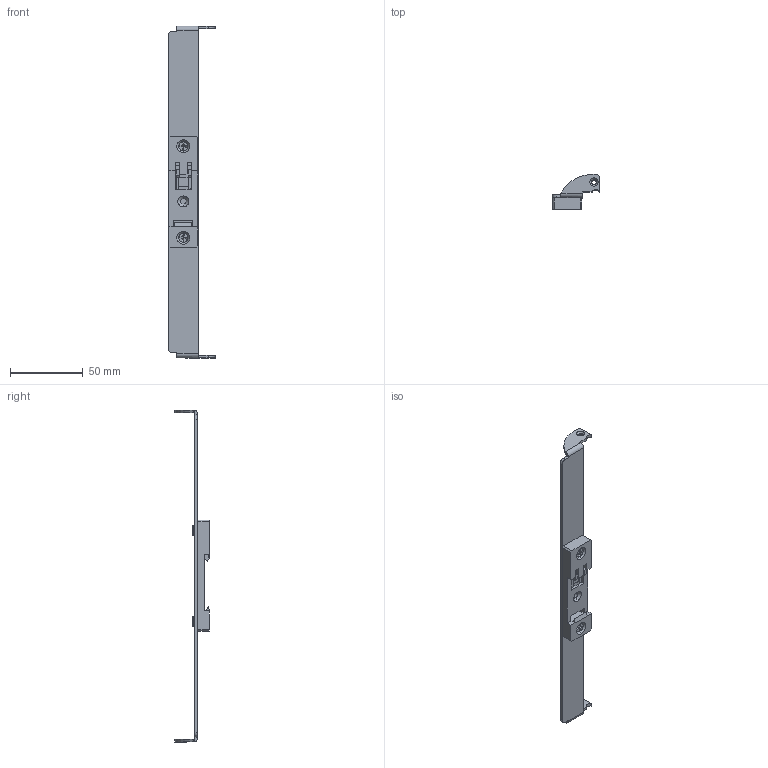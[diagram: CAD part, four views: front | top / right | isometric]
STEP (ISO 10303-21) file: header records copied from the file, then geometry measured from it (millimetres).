
FILE_DESCRIPTION (( 'STEP AP214' ), '1' );
FILE_NAME ('BRH220 assembly.STEP', '2024-02-07T16:08:20', ( '' ), ( '' ), 'SwSTEP 2.0', 'SolidWorks 2016', '' );
FILE_SCHEMA (( 'AUTOMOTIVE_DESIGN' ));
Length unit declared in the file: inch
Products named in the file (15): flat head screw_ai; Pusher; spring; flat head screw_ai_CR-FHMS 0.138-32x0.375x0.375-N; BRH220; 6-32 PEM Nut; Clamp mechanism; BRH220 assembly
Assembly tree (8 placements, depth 2):
  flat head screw_ai
  flat head screw_ai
  Pusher
  spring
  BRH220
Bounding box: 33 x 24 x 228.5 mm (x, y, z)
Volume: 18690 mm3; surface area: 18178.6 mm2
Topology: 8 solids, 8 shells, 259 faces, 658 edges, 418 vertices
Faces by surface type: plane 156, cylinder 75, cone 14, torus 8, bspline 6
Entity records: 7865 total; most frequent: CARTESIAN_POINT 2104, ORIENTED_EDGE 1120, DIRECTION 1100, EDGE_CURVE 560, VECTOR 410, LINE 410, VERTEX_POINT 358, AXIS2_PLACEMENT_3D 345
